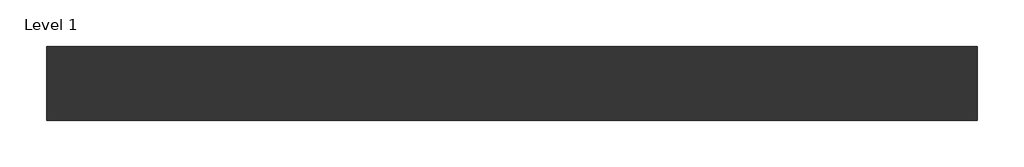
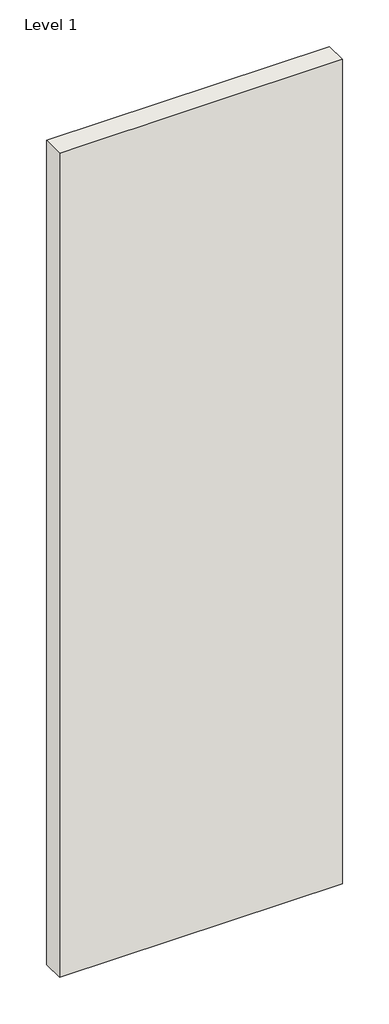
# One storey: 1 wall.
"""IFC4 building model written with IfcOpenShell, lengths in millimetres."""

import ifcopenshell
import ifcopenshell.guid

model = None  # the IFC model being written
_history = None  # IfcOwnerHistory: only IFC2X3 demands one
_inside = {}  # id of a spatial element -> (the spatial element, [elements in it])
_under = {}  # id of a project, library or spatial element -> (it, [spatial elements below it])
_declared = {}  # id of a project -> (the project, [libraries it declares])
_typed = {}  # id of a type object -> (the type object, [elements of that type])
_made_of = {}  # id of a material, layer set ... -> (it, [elements and type objects made of it])


def new_model(schema):
    """Start an empty IFC model of exactly this schema.

    Asked for "IFC4X3", IfcOpenShell would pick the latest addendum, in which some entities
    have other attributes; the version numbers below select the first issue.
    IFC2X3 requires an IfcOwnerHistory on every rooted entity: one is made here for all.
    """
    global model, _history
    if schema == "IFC4X3":
        model = ifcopenshell.file(schema_version=(4, 3, 0, 0))
    else:
        model = ifcopenshell.file(schema=schema)
    _inside.clear()
    _under.clear()
    _declared.clear()
    _typed.clear()
    _made_of.clear()
    _history = None
    if model.schema == "IFC2X3":
        org = make("IfcOrganization", Name="unknown")
        user = make(
            "IfcPersonAndOrganization",
            ThePerson=make("IfcPerson", FamilyName="unknown"),
            TheOrganization=org,
        )
        app = make(
            "IfcApplication",
            ApplicationDeveloper=org,
            Version="unknown",
            ApplicationFullName="unknown",
            ApplicationIdentifier="unknown",
        )
        _history = make(
            "IfcOwnerHistory",
            OwningUser=user,
            OwningApplication=app,
            ChangeAction="ADDED",
            CreationDate=0,
        )
    return model


def make(cls, **values):
    """One entity of the class cls with the attributes given. An attribute that is None is left unset."""
    return model.create_entity(
        cls, **{name: value for name, value in values.items() if value is not None}
    )


def rooted(cls, **values):
    """An entity with a GlobalId (a new one), such as an element, a storey or a relation."""
    return make(cls, GlobalId=ifcopenshell.guid.new(), OwnerHistory=_history, **values)


def si_unit(unit_type, name, prefix=None):
    """IfcSIUnit, for example si_unit("LENGTHUNIT", "METRE", prefix="MILLI")."""
    return make("IfcSIUnit", UnitType=unit_type, Prefix=prefix, Name=name)


def assignment(units):
    """IfcUnitAssignment: the units of a project."""
    return None if units is None else make("IfcUnitAssignment", Units=units)


def point(xyz):
    """IfcCartesianPoint."""
    return None if xyz is None else make("IfcCartesianPoint", Coordinates=xyz)


def direction(xyz):
    """IfcDirection."""
    return None if xyz is None else make("IfcDirection", DirectionRatios=xyz)


def frame(location, z_axis=None, x_axis=None):
    """IfcAxis2Placement3D, a coordinate frame: its origin and axes. An axis left out is left unset."""
    return make(
        "IfcAxis2Placement3D",
        Location=point(location),
        Axis=direction(z_axis),
        RefDirection=direction(x_axis),
    )


def origin():
    """The frame at (0, 0, 0) with its axes left unset."""
    return frame((0.0, 0.0, 0.0))


def origin_with_axes():
    """The frame at (0, 0, 0) with the z axis (0, 0, 1) and the x axis (1, 0, 0) written out."""
    return frame((0.0, 0.0, 0.0), z_axis=(0.0, 0.0, 1.0), x_axis=(1.0, 0.0, 0.0))


def place(relative_to, where):
    """IfcLocalPlacement: puts the frame where relative to a parent placement (None: the world)."""
    return make(
        "IfcLocalPlacement", PlacementRelTo=relative_to, RelativePlacement=where
    )


def context(
    kind, dimensions, precision=None, world=None, true_north=None, identifier=None
):
    """IfcGeometricRepresentationContext, for example the 3D "Model" context."""
    return make(
        "IfcGeometricRepresentationContext",
        ContextIdentifier=identifier,
        ContextType=kind,
        CoordinateSpaceDimension=dimensions,
        Precision=precision,
        WorldCoordinateSystem=world,
        TrueNorth=true_north,
    )


def project(units=None, contexts=None):
    """IfcProject with its units and contexts."""
    return rooted(
        "IfcProject",
        Name="project",
        RepresentationContexts=contexts,
        UnitsInContext=assignment(units),
    )


def spatial(cls, under=None, at=None, **own):
    """A site, building, storey or space (cls), placed at a placement, below another one or the project."""
    s = rooted(cls, ObjectPlacement=at, **own)
    if under is not None:
        _under.setdefault(under.id(), (under, []))[1].append(s)
    return s


def polyline(points):
    """IfcPolyline through the points."""
    return make("IfcPolyline", Points=[point(p) for p in points])


def outline(outer, holes=None, kind="AREA"):
    """IfcArbitraryClosedProfileDef: a profile drawn as a closed curve; with holes, ...WithVoids."""
    if holes is None:
        return make("IfcArbitraryClosedProfileDef", ProfileType=kind, OuterCurve=outer)
    return make(
        "IfcArbitraryProfileDefWithVoids",
        ProfileType=kind,
        OuterCurve=outer,
        InnerCurves=holes,
    )


def extrude(swept, where, along, depth):
    """IfcExtrudedAreaSolid: the profile swept, set in the frame where, extruded along a direction by depth."""
    return make(
        "IfcExtrudedAreaSolid",
        SweptArea=swept,
        Position=where,
        ExtrudedDirection=direction(along),
        Depth=depth,
    )


def shape(context_of_items, identifier, shape_type, items):
    """IfcShapeRepresentation: the items that make up one representation, for example the "Body"."""
    return make(
        "IfcShapeRepresentation",
        ContextOfItems=context_of_items,
        RepresentationIdentifier=identifier,
        RepresentationType=shape_type,
        Items=items,
    )


def made_of(thing, what):
    """Note that an element or type object is made of a material, layer set ...; save() writes the relation."""
    if what is not None:
        _made_of.setdefault(what.id(), (what, []))[1].append(thing)
    return thing


def element(
    cls,
    number,
    at=None,
    inside=None,
    cuts=None,
    type_object=None,
    material=None,
    context=None,
    identifier="Body",
    shape_type=None,
    held_by="IfcProductDefinitionShape",
    body=None,
    shapes=None,
    **own,
):
    """One element of the class cls, such as IfcWall. Its Tag is "e" and its number.

    at: its placement. inside: the storey or other place that contains it. cuts: it is an
    opening in that element (IfcRelVoidsElement). A single representation is given by context,
    identifier, shape_type and body (its items); several are given by shapes. held_by: the class
    of the entity that holds the representations. save() writes the other relations.
    """
    e = rooted(cls, Tag="e%d" % number, ObjectPlacement=at, **own)
    if body is not None:
        shapes = [shape(context, identifier, shape_type, body)]
    if shapes is not None:
        e.Representation = make(held_by, Representations=shapes)
    if inside is not None:
        _inside.setdefault(inside.id(), (inside, []))[1].append(e)
    if cuts is not None:
        rooted(
            "IfcRelVoidsElement", RelatingBuildingElement=cuts, RelatedOpeningElement=e
        )
    if type_object is not None:
        _typed.setdefault(type_object.id(), (type_object, []))[1].append(e)
    return made_of(e, material)


def aggregate(whole, parts):
    """IfcRelAggregates: a whole, such as a stair, and the parts it consists of."""
    return rooted("IfcRelAggregates", RelatingObject=whole, RelatedObjects=parts)


def save(model, path):
    """Write the relations noted so far, then the file.

    IfcRelAggregates (storeys below a building ...), IfcRelContainedInSpatialStructure (elements
    in a storey), IfcRelDefinesByType, IfcRelAssociatesMaterial and IfcRelDeclares: one each for
    every whole, place, type object, material and project.
    """
    for whole, parts in _under.values():
        aggregate(whole, parts)
    for where, things in _inside.values():
        rooted(
            "IfcRelContainedInSpatialStructure",
            RelatedElements=things,
            RelatingStructure=where,
        )
    for kind, things in _typed.values():
        rooted("IfcRelDefinesByType", RelatedObjects=things, RelatingType=kind)
    for what, things in _made_of.values():
        rooted("IfcRelAssociatesMaterial", RelatedObjects=things, RelatingMaterial=what)
    for by, libraries in _declared.values():
        rooted("IfcRelDeclares", RelatingContext=by, RelatedDefinitions=libraries)
    model.write(path)


model = new_model("IFC4")

# Units and contexts
model_context = context("Model", 3, world=origin())
ifc_project = project(units=[si_unit("LENGTHUNIT", "METRE", prefix="MILLI")], contexts=[model_context])

# Site, building, storey
site = spatial("IfcSite", under=ifc_project)
building = spatial("IfcBuilding", under=site)
storey = spatial("IfcBuildingStorey", under=building, Name="Level 1", Elevation=0.0)

# Wall
placement = place(None, origin())
element("IfcWall", 1, ObjectType="CAP. 6 - SeB 01 - FATADA VENTILATA", at=placement, inside=storey, context=model_context, shape_type="SweptSolid", body=[
    extrude(outline(polyline([(-16904.1464237, 6782.9042935), (-19504.1464237, 6782.9042935), (-19504.1464237, 6989.9042935), (-16904.1464237, 6989.9042935), (-16904.1464237, 6782.9042935)])), origin_with_axes(), (0.0, 0.0, 1.0), 8000.0),
])

save(model, "model.ifc")
